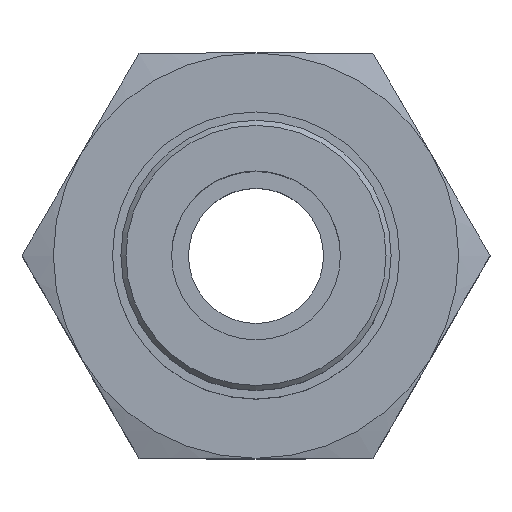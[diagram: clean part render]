
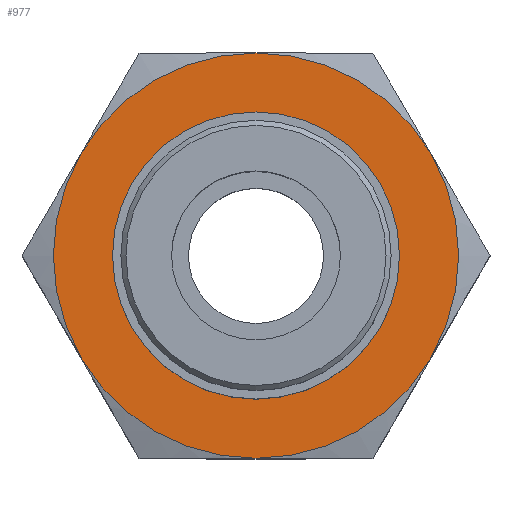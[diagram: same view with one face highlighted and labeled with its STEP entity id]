
A CAD part, top view. The second image highlights one B-rep face of the part: STEP entity #977.
In plain terms, the highlighted planar face has unit normal (0, 0, 1).
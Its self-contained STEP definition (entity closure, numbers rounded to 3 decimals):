
#78=FACE_BOUND('',#279,.T.);
#104=PLANE('',#1130);
#197=FACE_OUTER_BOUND('',#278,.T.);
#278=EDGE_LOOP('',(#886,#887,#888,#889,#890,#891));
#279=EDGE_LOOP('',(#892));
#387=CIRCLE('',#1100,12.);
#388=CIRCLE('',#1102,12.);
#389=CIRCLE('',#1104,12.);
#390=CIRCLE('',#1106,12.);
#391=CIRCLE('',#1108,12.);
#392=CIRCLE('',#1110,12.);
#397=CIRCLE('',#1123,8.5);
#466=VERTEX_POINT('',#1714);
#467=VERTEX_POINT('',#1718);
#469=VERTEX_POINT('',#1725);
#471=VERTEX_POINT('',#1735);
#473=VERTEX_POINT('',#1748);
#475=VERTEX_POINT('',#1758);
#481=VERTEX_POINT('',#1794);
#589=EDGE_CURVE('',#466,#467,#387,.T.);
#592=EDGE_CURVE('',#469,#466,#388,.T.);
#595=EDGE_CURVE('',#471,#469,#389,.T.);
#597=EDGE_CURVE('',#473,#471,#390,.T.);
#600=EDGE_CURVE('',#475,#473,#391,.T.);
#603=EDGE_CURVE('',#467,#475,#392,.T.);
#616=EDGE_CURVE('',#481,#481,#397,.T.);
#886=ORIENTED_EDGE('',*,*,#603,.T.);
#887=ORIENTED_EDGE('',*,*,#600,.T.);
#888=ORIENTED_EDGE('',*,*,#597,.T.);
#889=ORIENTED_EDGE('',*,*,#595,.T.);
#890=ORIENTED_EDGE('',*,*,#592,.T.);
#891=ORIENTED_EDGE('',*,*,#589,.T.);
#892=ORIENTED_EDGE('',*,*,#616,.T.);
#977=ADVANCED_FACE('',(#197,#78),#104,.T.);
#1100=AXIS2_PLACEMENT_3D('',#1722,#1348,#1349);
#1102=AXIS2_PLACEMENT_3D('',#1732,#1352,#1353);
#1104=AXIS2_PLACEMENT_3D('',#1742,#1356,#1357);
#1106=AXIS2_PLACEMENT_3D('',#1749,#1360,#1361);
#1108=AXIS2_PLACEMENT_3D('',#1759,#1364,#1365);
#1110=AXIS2_PLACEMENT_3D('',#1768,#1368,#1369);
#1123=AXIS2_PLACEMENT_3D('',#1796,#1401,#1402);
#1130=AXIS2_PLACEMENT_3D('',#1806,#1417,#1418);
#1348=DIRECTION('center_axis',(0.,0.,1.));
#1349=DIRECTION('ref_axis',(0.,-1.,0.));
#1352=DIRECTION('center_axis',(0.,0.,1.));
#1353=DIRECTION('ref_axis',(0.,-1.,0.));
#1356=DIRECTION('center_axis',(0.,0.,1.));
#1357=DIRECTION('ref_axis',(0.,-1.,0.));
#1360=DIRECTION('center_axis',(0.,0.,1.));
#1361=DIRECTION('ref_axis',(0.,-1.,0.));
#1364=DIRECTION('center_axis',(0.,0.,1.));
#1365=DIRECTION('ref_axis',(0.,-1.,0.));
#1368=DIRECTION('center_axis',(0.,0.,1.));
#1369=DIRECTION('ref_axis',(0.,-1.,0.));
#1401=DIRECTION('center_axis',(0.,0.,-1.));
#1402=DIRECTION('ref_axis',(1.,0.,0.));
#1417=DIRECTION('center_axis',(0.,0.,1.));
#1418=DIRECTION('ref_axis',(1.,0.,0.));
#1714=CARTESIAN_POINT('',(0.,12.,12.));
#1718=CARTESIAN_POINT('',(-10.392,6.,12.));
#1722=CARTESIAN_POINT('Origin',(0.,0.,12.));
#1725=CARTESIAN_POINT('',(10.392,6.,12.));
#1732=CARTESIAN_POINT('Origin',(0.,0.,12.));
#1735=CARTESIAN_POINT('',(10.392,-6.,12.));
#1742=CARTESIAN_POINT('Origin',(0.,0.,12.));
#1748=CARTESIAN_POINT('',(0.,-12.,12.));
#1749=CARTESIAN_POINT('Origin',(0.,0.,12.));
#1758=CARTESIAN_POINT('',(-10.392,-6.,12.));
#1759=CARTESIAN_POINT('Origin',(0.,0.,12.));
#1768=CARTESIAN_POINT('Origin',(0.,0.,12.));
#1794=CARTESIAN_POINT('',(-8.5,0.,12.));
#1796=CARTESIAN_POINT('Origin',(0.,0.,12.));
#1806=CARTESIAN_POINT('Origin',(0.,0.,
12.));
